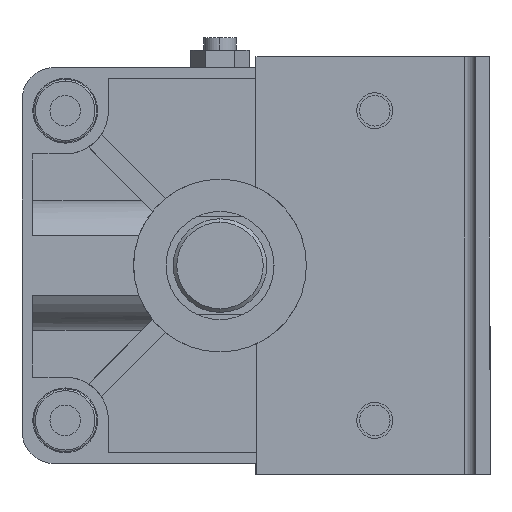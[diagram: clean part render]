
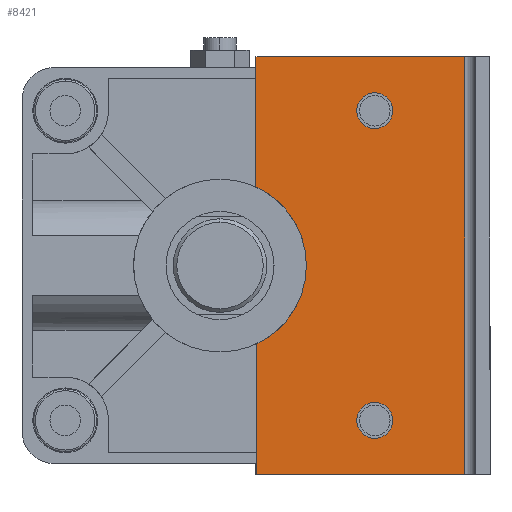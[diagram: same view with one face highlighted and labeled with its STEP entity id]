
A CAD part, left-side view. The second image highlights one B-rep face of the part: STEP entity #8421.
In plain terms, the highlighted planar face has unit normal (-1, 0, 0) as drawn and (0, 0, 1) by its records, which use the part's own axes.
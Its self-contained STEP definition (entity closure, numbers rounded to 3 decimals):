
#66 = CARTESIAN_POINT ( 'NONE',  ( -58., -42.5, 0. ) ) ;
#90 = DIRECTION ( 'NONE',  ( 1., 0., 0. ) ) ;
#110 = CARTESIAN_POINT ( 'NONE',  ( 58., -68., 0. ) ) ;
#250 = ORIENTED_EDGE ( 'NONE', *, *, #8379, .T. ) ;
#341 = CARTESIAN_POINT ( 'NONE',  ( -43., -43., 0. ) ) ;
#527 = VECTOR ( 'NONE', #7927, 1000. ) ;
#720 = VERTEX_POINT ( 'NONE', #110 ) ;
#766 = VERTEX_POINT ( 'NONE', #2645 ) ;
#808 = DIRECTION ( 'NONE',  ( 1., 0., 0. ) ) ;
#944 = VERTEX_POINT ( 'NONE', #8058 ) ;
#959 = CARTESIAN_POINT ( 'NONE',  ( 58., -42.5, 0. ) ) ;
#1004 = CIRCLE ( 'NONE', #1923, 5. ) ;
#1068 = EDGE_CURVE ( 'NONE', #6913, #1210, #8387, .T. ) ;
#1128 = EDGE_CURVE ( 'NONE', #944, #8548, #1004, .T. ) ;
#1149 = CIRCLE ( 'NONE', #8995, 5. ) ;
#1163 = VECTOR ( 'NONE', #9547, 1000. ) ;
#1210 = VERTEX_POINT ( 'NONE', #2756 ) ;
#1283 = LINE ( 'NONE', #959, #4503 ) ;
#1418 = ORIENTED_EDGE ( 'NONE', *, *, #2694, .T. ) ;
#1427 = AXIS2_PLACEMENT_3D ( 'NONE', #2696, #2985, #808 ) ;
#1468 = CARTESIAN_POINT ( 'NONE',  ( -38., -43., 0. ) ) ;
#1519 = ORIENTED_EDGE ( 'NONE', *, *, #4987, .F. ) ;
#1596 = AXIS2_PLACEMENT_3D ( 'NONE', #2303, #4274, #90 ) ;
#1602 = CIRCLE ( 'NONE', #1427, 24. ) ;
#1671 = CARTESIAN_POINT ( 'NONE',  ( 0., -10., 0. ) ) ;
#1923 = AXIS2_PLACEMENT_3D ( 'NONE', #2452, #8083, #7489 ) ;
#2165 = CARTESIAN_POINT ( 'NONE',  ( 43., -43., 0. ) ) ;
#2303 = CARTESIAN_POINT ( 'NONE',  ( -43., -43., 0. ) ) ;
#2366 = ORIENTED_EDGE ( 'NONE', *, *, #1128, .T. ) ;
#2452 = CARTESIAN_POINT ( 'NONE',  ( 43., -43., 0. ) ) ;
#2645 = CARTESIAN_POINT ( 'NONE',  ( 58., -10., 0. ) ) ;
#2694 = EDGE_CURVE ( 'NONE', #6184, #7774, #1602, .T. ) ;
#2696 = CARTESIAN_POINT ( 'NONE',  ( 0., 0., 0. ) ) ;
#2756 = CARTESIAN_POINT ( 'NONE',  ( -58., -10., 0. ) ) ;
#2985 = DIRECTION ( 'NONE',  ( 0., 0., -1. ) ) ;
#3170 = EDGE_CURVE ( 'NONE', #7942, #6704, #3302, .T. ) ;
#3302 = CIRCLE ( 'NONE', #1596, 5. ) ;
#3487 = ORIENTED_EDGE ( 'NONE', *, *, #5328, .T. ) ;
#3569 = EDGE_CURVE ( 'NONE', #6704, #7942, #1149, .T. ) ;
#3833 = EDGE_LOOP ( 'NONE', ( #1418, #3487, #5510, #1519, #7853, #250 ) ) ;
#3963 = ORIENTED_EDGE ( 'NONE', *, *, #4938, .T. ) ;
#3988 = VECTOR ( 'NONE', #6050, 1000. ) ;
#4078 = CARTESIAN_POINT ( 'NONE',  ( 21.817, -10., 0. ) ) ;
#4100 = CIRCLE ( 'NONE', #7795, 5. ) ;
#4104 = DIRECTION ( 'NONE',  ( -1., 0., 0. ) ) ;
#4126 = VECTOR ( 'NONE', #4104, 1000. ) ;
#4274 = DIRECTION ( 'NONE',  ( 0., 0., -1. ) ) ;
#4435 = DIRECTION ( 'NONE',  ( 0., 0., -1. ) ) ;
#4503 = VECTOR ( 'NONE', #8016, 1000. ) ;
#4884 = ORIENTED_EDGE ( 'NONE', *, *, #3170, .T. ) ;
#4908 = LINE ( 'NONE', #5858, #1163 ) ;
#4938 = EDGE_CURVE ( 'NONE', #8548, #944, #4100, .T. ) ;
#4965 = DIRECTION ( 'NONE',  ( 1., 0., 0. ) ) ;
#4987 = EDGE_CURVE ( 'NONE', #720, #6913, #4908, .T. ) ;
#5024 = LINE ( 'NONE', #1671, #4126 ) ;
#5051 = CARTESIAN_POINT ( 'NONE',  ( 48., -43., 0. ) ) ;
#5202 = FACE_OUTER_BOUND ( 'NONE', #3833, .T. ) ;
#5265 = AXIS2_PLACEMENT_3D ( 'NONE', #5516, #7950, #8735 ) ;
#5300 = EDGE_CURVE ( 'NONE', #766, #720, #1283, .T. ) ;
#5328 = EDGE_CURVE ( 'NONE', #7774, #1210, #7721, .T. ) ;
#5510 = ORIENTED_EDGE ( 'NONE', *, *, #1068, .F. ) ;
#5516 = CARTESIAN_POINT ( 'NONE',  ( -58., -68., 0. ) ) ;
#5858 = CARTESIAN_POINT ( 'NONE',  ( 0., -68., 0. ) ) ;
#6050 = DIRECTION ( 'NONE',  ( -1., 0., 0. ) ) ;
#6099 = ORIENTED_EDGE ( 'NONE', *, *, #3569, .T. ) ;
#6184 = VERTEX_POINT ( 'NONE', #4078 ) ;
#6704 = VERTEX_POINT ( 'NONE', #6776 ) ;
#6728 = FACE_BOUND ( 'NONE', #8435, .T. ) ;
#6776 = CARTESIAN_POINT ( 'NONE',  ( -48., -43., 0. ) ) ;
#6888 = FACE_BOUND ( 'NONE', #8754, .T. ) ;
#6913 = VERTEX_POINT ( 'NONE', #8443 ) ;
#7489 = DIRECTION ( 'NONE',  ( 1., 0., 0. ) ) ;
#7721 = LINE ( 'NONE', #8988, #3988 ) ;
#7726 = DIRECTION ( 'NONE',  ( 0., 0., -1. ) ) ;
#7774 = VERTEX_POINT ( 'NONE', #8021 ) ;
#7795 = AXIS2_PLACEMENT_3D ( 'NONE', #2165, #4435, #8752 ) ;
#7853 = ORIENTED_EDGE ( 'NONE', *, *, #5300, .F. ) ;
#7927 = DIRECTION ( 'NONE',  ( 0., 1., 0. ) ) ;
#7942 = VERTEX_POINT ( 'NONE', #1468 ) ;
#7950 = DIRECTION ( 'NONE',  ( 0., 0., 1. ) ) ;
#8016 = DIRECTION ( 'NONE',  ( 0., -1., 0. ) ) ;
#8021 = CARTESIAN_POINT ( 'NONE',  ( -21.817, -10., 0. ) ) ;
#8058 = CARTESIAN_POINT ( 'NONE',  ( 38., -43., 0. ) ) ;
#8083 = DIRECTION ( 'NONE',  ( 0., 0., -1. ) ) ;
#8266 = PLANE ( 'NONE',  #5265 ) ;
#8379 = EDGE_CURVE ( 'NONE', #766, #6184, #5024, .T. ) ;
#8387 = LINE ( 'NONE', #66, #527 ) ;
#8421 = ADVANCED_FACE ( 'NONE', ( #6728, #6888, #5202 ), #8266, .T. ) ;
#8435 = EDGE_LOOP ( 'NONE', ( #4884, #6099 ) ) ;
#8443 = CARTESIAN_POINT ( 'NONE',  ( -58., -68., 0. ) ) ;
#8548 = VERTEX_POINT ( 'NONE', #5051 ) ;
#8735 = DIRECTION ( 'NONE',  ( 1., 0., 0. ) ) ;
#8752 = DIRECTION ( 'NONE',  ( 1., 0., 0. ) ) ;
#8754 = EDGE_LOOP ( 'NONE', ( #3963, #2366 ) ) ;
#8988 = CARTESIAN_POINT ( 'NONE',  ( 0., -10., 0. ) ) ;
#8995 = AXIS2_PLACEMENT_3D ( 'NONE', #341, #7726, #4965 ) ;
#9547 = DIRECTION ( 'NONE',  ( -1., 0., 0. ) ) ;
